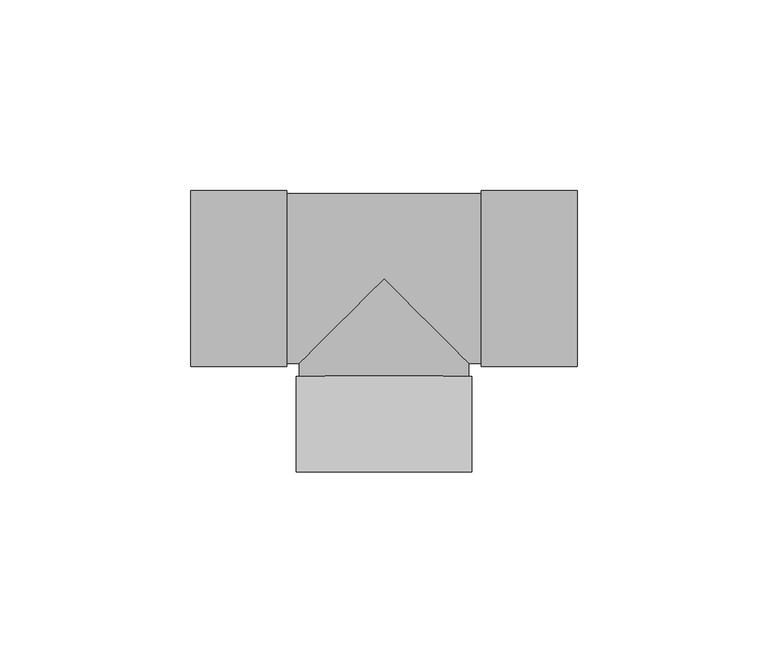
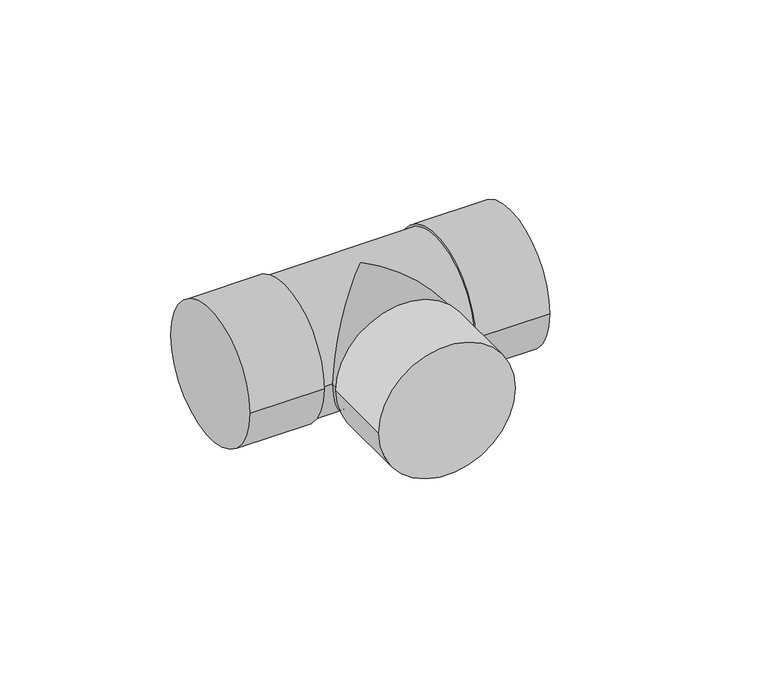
"""IFC4 building model written with IfcOpenShell, lengths in millimetres: pipe fitting geometry, Tê - Soldado - CU : Padrão."""

from ifc_helpers import new_model, si_unit, frame, origin, place, context, project, spatial, circle_curve, ellipse_curve, source, transform, mapped, element, save
from ifc_brep_helpers import plane_surface, cylinder_surface, advanced_brep


def pipe_fitting_8c09d5cc(model_context):
    return source(origin(), model_context, "Body", "AdvancedBrep", [
        advanced_brep(
        [(23.065, -50.775, 0.0), (-23.065, -50.775, 0.0), (23.065, -25.65, 0.0), (-23.065, -25.65, 0.0), (22.25, -25.65, 0.0), (-22.25, -25.65, 0.0), (-50.6825, -23.065, 0.0), (-50.6825, 23.065, 0.0), (-25.5575, -23.065, 0.0), (-25.5575, 23.065, 0.0), (-25.5575, -22.25, 0.0), (-25.5575, 22.25, 0.0), (25.5575, 22.25, 0.0), (-22.25, -22.25, 0.0), (0.0, 0.0, 22.25), (22.25, -22.25, 0.0), (25.5575, -22.25, 0.0), (0.0, 0.0, -22.25), (25.5575, -23.065, 0.0), (25.5575, 23.065, 0.0), (50.6825, -23.065, 0.0), (50.6825, 23.065, 0.0)],
        [
            (0, 1, circle_curve(frame((0.0, -50.775, 0.0), z_axis=(0.0, -1.0, 0.0), x_axis=(-1.0, 0.0, 0.0)), 23.065)),
            (1, 0, circle_curve(frame((0.0, -50.775, 0.0), z_axis=(0.0, -1.0, 0.0), x_axis=(-1.0, 0.0, 0.0)), 23.065)),
            (2, 3, circle_curve(frame((0.0, -25.65, 0.0), z_axis=(0.0, 1.0, 0.0), x_axis=(-1.0, 0.0, 0.0)), 23.065)),
            (3, 2, circle_curve(frame((0.0, -25.65, 0.0), z_axis=(0.0, 1.0, 0.0), x_axis=(-1.0, 0.0, 0.0)), 23.065)),
            (4, 5, circle_curve(frame((0.0, -25.65, 0.0), z_axis=(0.0, -1.0, 0.0), x_axis=(1.0, 0.0, 0.0)), 22.25)),
            (5, 4, circle_curve(frame((0.0, -25.65, 0.0), z_axis=(0.0, -1.0, 0.0), x_axis=(1.0, 0.0, 0.0)), 22.25)),
            (0, 2),
            (3, 1),
            (6, 7, circle_curve(frame((-50.6825, 0.0, 0.0), z_axis=(-1.0, 0.0, 0.0), x_axis=(0.0, 1.0, 0.0)), 23.065)),
            (7, 6, circle_curve(frame((-50.6825, 0.0, 0.0), z_axis=(-1.0, 0.0, 0.0), x_axis=(0.0, 1.0, 0.0)), 23.065)),
            (8, 9, circle_curve(frame((-25.5575, 0.0, 0.0), z_axis=(1.0, 0.0, 0.0), x_axis=(0.0, 1.0, 0.0)), 23.065)),
            (9, 8, circle_curve(frame((-25.5575, 0.0, 0.0), z_axis=(1.0, 0.0, 0.0), x_axis=(0.0, 1.0, 0.0)), 23.065)),
            (10, 11, circle_curve(frame((-25.5575, 0.0, 0.0), z_axis=(-1.0, 0.0, 0.0), x_axis=(0.0, 1.0, 0.0)), 22.25)),
            (11, 10, circle_curve(frame((-25.5575, 0.0, 0.0), z_axis=(-1.0, 0.0, 0.0), x_axis=(0.0, 1.0, 0.0)), 22.25)),
            (6, 8),
            (9, 7),
            (12, 11),
            (10, 13),
            (13, 14, ellipse_curve(frame((0.0, 0.0, 0.0), z_axis=(-0.7071067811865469, 0.7071067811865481, 0.0), x_axis=(-0.707106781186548, -0.7071067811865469, 0.0)), 31.4662518, 22.25)),
            (14, 15, ellipse_curve(frame((0.0, 0.0, 0.0), z_axis=(0.7071067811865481, 0.7071067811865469, 0.0), x_axis=(-0.707106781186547, 0.7071067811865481, 0.0)), 31.4662518, 22.25)),
            (15, 16),
            (16, 12, circle_curve(frame((25.5575, 0.0, 0.0), z_axis=(-1.0, 0.0, 0.0), x_axis=(0.0, 1.0, 0.0)), 22.25)),
            (12, 16, circle_curve(frame((25.5575, 0.0, 0.0), z_axis=(-1.0, 0.0, 0.0), x_axis=(0.0, 1.0, 0.0)), 22.25)),
            (15, 17, ellipse_curve(frame((0.0, 0.0, 0.0), z_axis=(0.7071067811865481, 0.7071067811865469, 0.0), x_axis=(-0.707106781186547, 0.7071067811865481, 0.0)), 31.4662518, 22.25)),
            (17, 13, ellipse_curve(frame((0.0, 0.0, 0.0), z_axis=(-0.7071067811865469, 0.7071067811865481, 0.0), x_axis=(-0.707106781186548, -0.7071067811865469, 0.0)), 31.4662518, 22.25)),
            (18, 19, circle_curve(frame((25.5575, 0.0, 0.0), z_axis=(-1.0, 0.0, 0.0), x_axis=(0.0, 1.0, 0.0)), 23.065)),
            (19, 18, circle_curve(frame((25.5575, 0.0, 0.0), z_axis=(-1.0, 0.0, 0.0), x_axis=(0.0, 1.0, 0.0)), 23.065)),
            (20, 21, circle_curve(frame((50.6825, 0.0, 0.0), z_axis=(1.0, 0.0, 0.0), x_axis=(0.0, 1.0, 0.0)), 23.065)),
            (21, 20, circle_curve(frame((50.6825, 0.0, 0.0), z_axis=(1.0, 0.0, 0.0), x_axis=(0.0, 1.0, 0.0)), 23.065)),
            (18, 20),
            (21, 19),
            (4, 15),
            (13, 5),
        ],
        [
            plane_surface(frame((0.0, -50.775, 0.0), z_axis=(0.0, -1.0, 0.0), x_axis=(0.0, 0.0, 1.0))),
            plane_surface(frame((0.0, -25.65, 0.0), z_axis=(0.0, 1.0, 0.0), x_axis=(0.0, 0.0, 1.0))),
            cylinder_surface(frame((0.0, -50.775, 0.0), z_axis=(0.0, -1.0, 0.0), x_axis=(-1.0, 0.0, 0.0)), 23.065),
            plane_surface(frame((-50.6825, 0.0, 0.0), z_axis=(-1.0, 0.0, 0.0), x_axis=(0.0, 0.0, 1.0))),
            plane_surface(frame((-25.5575, 0.0, 0.0), z_axis=(1.0, 0.0, 0.0), x_axis=(0.0, 0.0, 1.0))),
            cylinder_surface(frame((-50.6825, 0.0, 0.0), z_axis=(-1.0, 0.0, 0.0), x_axis=(0.0, 1.0, 0.0)), 23.065),
            cylinder_surface(frame((-25.5575, 0.0, 0.0), z_axis=(-1.0, 0.0, 0.0), x_axis=(0.0, 1.0, 0.0)), 22.25),
            plane_surface(frame((25.5575, 0.0, 0.0), z_axis=(-1.0, 0.0, 0.0), x_axis=(0.0, 0.0, 1.0))),
            plane_surface(frame((50.6825, 0.0, 0.0), z_axis=(1.0, 0.0, 0.0), x_axis=(0.0, 0.0, 1.0))),
            cylinder_surface(frame((25.5575, 0.0, 0.0), z_axis=(-1.0, 0.0, 0.0), x_axis=(0.0, 1.0, 0.0)), 23.065),
            cylinder_surface(frame((0.0, 0.0, 0.0), z_axis=(0.0, 1.0, 0.0), x_axis=(1.0, 0.0, 0.0)), 22.25),
        ],
        [
            (0, [[1, 2]]),
            (1, [[3, 4], [5, 6]]),
            (2, [[-1, 7, -4, 8]]),
            (2, [[-2, -8, -3, -7]]),
            (3, [[9, 10]]),
            (4, [[11, 12], [13, 14]]),
            (5, [[-9, 15, -12, 16]]),
            (5, [[-10, -16, -11, -15]]),
            (6, [[17, -13, 18, 19, 20, 21, 22]]),
            (6, [[-17, 23, -21, 24, 25, -18, -14]]),
            (7, [[26, 27], [-22, -23]]),
            (8, [[28, 29]]),
            (9, [[-26, 30, -29, 31]]),
            (9, [[-27, -31, -28, -30]]),
            (10, [[32, -20, -19, 33, -5]]),
            (10, [[-32, -6, -33, -25, -24]]),
        ],
    ),
    ])


if __name__ == "__main__":
    model = new_model("IFC4")
    model_context = context("Model", 3, world=origin())
    ifc_project = project(units=[si_unit("LENGTHUNIT", "METRE", prefix="MILLI")], contexts=[model_context])
    site = spatial("IfcSite", under=ifc_project)
    building = spatial("IfcBuilding", under=site)
    placement = place(None, origin())
    pipe_fitting_shape = pipe_fitting_8c09d5cc(model_context)
    element("IfcPipeFitting", 1, ObjectType="Tê - Soldado - CU : Padrão", at=placement, inside=building, context=model_context, shape_type="MappedRepresentation", body=[
        mapped(pipe_fitting_shape, transform((0.0, 0.0, 0.0), x_axis=(1.0, 0.0, 0.0), y_axis=(0.0, 1.0, 0.0), z_axis=(0.0, 0.0, 1.0))),
    ])
    save(model, "model.ifc")
